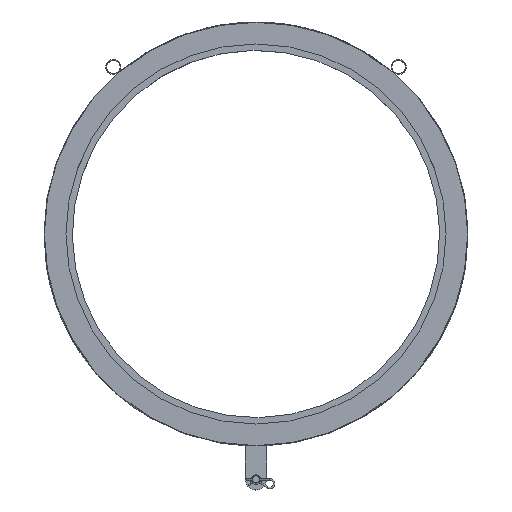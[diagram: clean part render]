
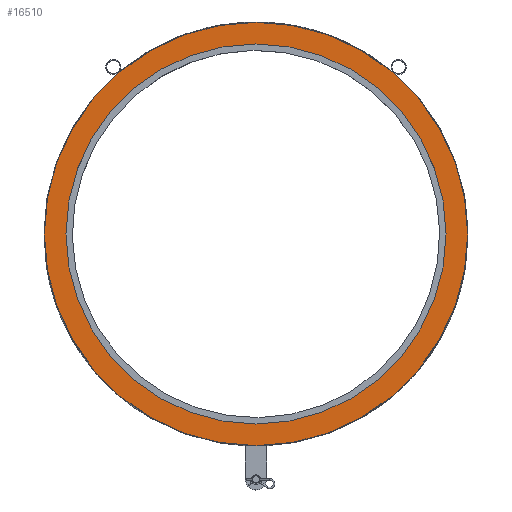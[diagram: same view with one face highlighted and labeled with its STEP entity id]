
A CAD part, top view. The second image highlights one B-rep face of the part: STEP entity #16510.
In plain terms, the highlighted planar face has unit normal (0, 0, 1).
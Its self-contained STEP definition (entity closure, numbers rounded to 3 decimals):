
#544=FACE_BOUND('',#3656,.T.);
#1760=PLANE('',#17464);
#2649=FACE_OUTER_BOUND('',#3655,.T.);
#3655=EDGE_LOOP('',(#15215));
#3656=EDGE_LOOP('',(#15216));
#6407=CIRCLE('',#17460,627.);
#6408=CIRCLE('',#17462,698.5);
#8021=VERTEX_POINT('',#38977);
#8022=VERTEX_POINT('',#38981);
#10436=EDGE_CURVE('',#8021,#8021,#6407,.T.);
#10438=EDGE_CURVE('',#8022,#8022,#6408,.T.);
#15215=ORIENTED_EDGE('',*,*,#10438,.F.);
#15216=ORIENTED_EDGE('',*,*,#10436,.T.);
#16510=ADVANCED_FACE('',(#2649,#544),#1760,.T.);
#17460=AXIS2_PLACEMENT_3D('',#38978,#20413,#20414);
#17462=AXIS2_PLACEMENT_3D('',#38982,#20418,#20419);
#17464=AXIS2_PLACEMENT_3D('',#38985,#20423,#20424);
#20413=DIRECTION('center_axis',(0.,0.,
-1.));
#20414=DIRECTION('ref_axis',(-1.,0.,0.));
#20418=DIRECTION('center_axis',(0.,0.,
-1.));
#20419=DIRECTION('ref_axis',(-1.,0.,0.));
#20423=DIRECTION('center_axis',(0.,0.,
1.));
#20424=DIRECTION('ref_axis',(-1.,0.,0.));
#38977=CARTESIAN_POINT('',(627.,0.,150.));
#38978=CARTESIAN_POINT('Origin',(0.,0.,
150.));
#38981=CARTESIAN_POINT('',(698.5,0.,150.));
#38982=CARTESIAN_POINT('Origin',(0.,0.,
150.));
#38985=CARTESIAN_POINT('Origin',(0.,0.,
150.));
